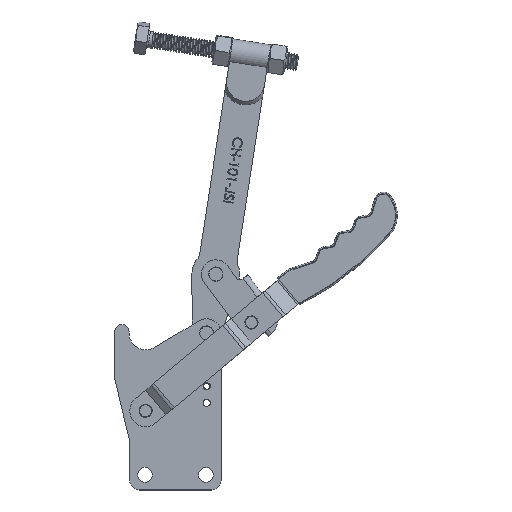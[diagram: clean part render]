
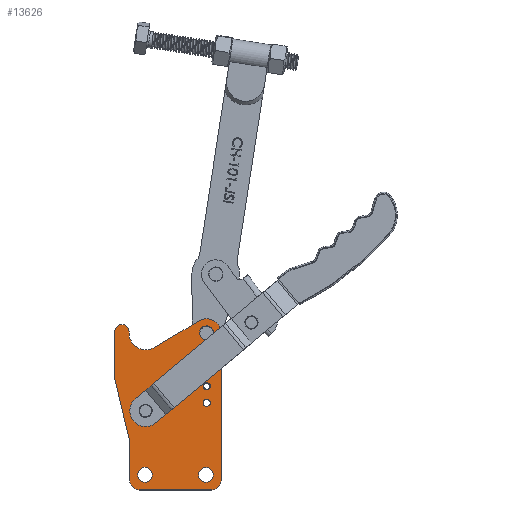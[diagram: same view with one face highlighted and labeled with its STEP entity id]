
A CAD part, top view. The second image highlights one B-rep face of the part: STEP entity #13626.
In plain terms, the highlighted planar face has unit normal (0, 0, 1).
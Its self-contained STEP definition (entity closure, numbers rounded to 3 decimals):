
#865=FACE_BOUND('',#2165,.T.);
#866=FACE_BOUND('',#2166,.T.);
#867=FACE_BOUND('',#2167,.T.);
#868=FACE_BOUND('',#2168,.T.);
#869=FACE_BOUND('',#2169,.T.);
#870=FACE_BOUND('',#2170,.T.);
#1091=PLANE('',#14680);
#1405=FACE_OUTER_BOUND('',#2164,.T.);
#2164=EDGE_LOOP('',(#9238,#9239,#9240,#9241,#9242,#9243,#9244,#9245,#9246,
#9247,#9248,#9249,#9250));
#2165=EDGE_LOOP('',(#9251,#9252));
#2166=EDGE_LOOP('',(#9253,#9254));
#2167=EDGE_LOOP('',(#9255,#9256));
#2168=EDGE_LOOP('',(#9257,#9258));
#2169=EDGE_LOOP('',(#9259,#9260));
#2170=EDGE_LOOP('',(#9261,#9262));
#3015=LINE('',#19081,#4103);
#3016=LINE('',#19085,#4104);
#3017=LINE('',#19089,#4105);
#3018=LINE('',#19093,#4106);
#3019=LINE('',#19097,#4107);
#3020=LINE('',#19101,#4108);
#3021=LINE('',#19103,#4109);
#4103=VECTOR('',#15827,1000.);
#4104=VECTOR('',#15830,1000.);
#4105=VECTOR('',#15833,1000.);
#4106=VECTOR('',#15836,1000.);
#4107=VECTOR('',#15839,1000.);
#4108=VECTOR('',#15842,1000.);
#4109=VECTOR('',#15843,1000.);
#5183=CIRCLE('',#14653,6.15);
#5184=CIRCLE('',#14654,6.15);
#5187=CIRCLE('',#14658,6.15);
#5188=CIRCLE('',#14659,6.15);
#5189=CIRCLE('',#14661,3.);
#5192=CIRCLE('',#14664,3.);
#5193=CIRCLE('',#14666,3.);
#5196=CIRCLE('',#14669,3.);
#5197=CIRCLE('',#14671,6.15);
#5200=CIRCLE('',#14674,6.15);
#5201=CIRCLE('',#14676,4.75);
#5204=CIRCLE('',#14679,4.75);
#5205=CIRCLE('',#14681,8.);
#5206=CIRCLE('',#14682,12.);
#5207=CIRCLE('',#14683,14.);
#5208=CIRCLE('',#14684,6.);
#5209=CIRCLE('',#14685,10.);
#5210=CIRCLE('',#14686,8.);
#5661=VERTEX_POINT('',#19023);
#5662=VERTEX_POINT('',#19025);
#5665=VERTEX_POINT('',#19033);
#5666=VERTEX_POINT('',#19035);
#5667=VERTEX_POINT('',#19039);
#5668=VERTEX_POINT('',#19040);
#5671=VERTEX_POINT('',#19049);
#5672=VERTEX_POINT('',#19050);
#5675=VERTEX_POINT('',#19059);
#5676=VERTEX_POINT('',#19060);
#5679=VERTEX_POINT('',#19069);
#5680=VERTEX_POINT('',#19070);
#5683=VERTEX_POINT('',#19079);
#5684=VERTEX_POINT('',#19080);
#5685=VERTEX_POINT('',#19082);
#5686=VERTEX_POINT('',#19084);
#5687=VERTEX_POINT('',#19086);
#5688=VERTEX_POINT('',#19088);
#5689=VERTEX_POINT('',#19090);
#5690=VERTEX_POINT('',#19092);
#5691=VERTEX_POINT('',#19094);
#5692=VERTEX_POINT('',#19096);
#5693=VERTEX_POINT('',#19098);
#5694=VERTEX_POINT('',#19100);
#5695=VERTEX_POINT('',#19102);
#7084=EDGE_CURVE('',#5661,#5662,#5183,.T.);
#7085=EDGE_CURVE('',#5662,#5661,#5184,.T.);
#7089=EDGE_CURVE('',#5665,#5666,#5187,.T.);
#7090=EDGE_CURVE('',#5666,#5665,#5188,.T.);
#7091=EDGE_CURVE('',#5667,#5668,#5189,.T.);
#7095=EDGE_CURVE('',#5668,#5667,#5192,.T.);
#7096=EDGE_CURVE('',#5671,#5672,#5193,.T.);
#7100=EDGE_CURVE('',#5672,#5671,#5196,.T.);
#7101=EDGE_CURVE('',#5675,#5676,#5197,.T.);
#7105=EDGE_CURVE('',#5676,#5675,#5200,.T.);
#7106=EDGE_CURVE('',#5679,#5680,#5201,.T.);
#7110=EDGE_CURVE('',#5680,#5679,#5204,.T.);
#7111=EDGE_CURVE('',#5683,#5684,#3015,.T.);
#7112=EDGE_CURVE('',#5683,#5685,#5205,.T.);
#7113=EDGE_CURVE('',#5685,#5686,#3016,.T.);
#7114=EDGE_CURVE('',#5686,#5687,#5206,.T.);
#7115=EDGE_CURVE('',#5687,#5688,#3017,.T.);
#7116=EDGE_CURVE('',#5688,#5689,#5207,.T.);
#7117=EDGE_CURVE('',#5689,#5690,#3018,.T.);
#7118=EDGE_CURVE('',#5690,#5691,#5208,.T.);
#7119=EDGE_CURVE('',#5691,#5692,#3019,.T.);
#7120=EDGE_CURVE('',#5692,#5693,#5209,.T.);
#7121=EDGE_CURVE('',#5693,#5694,#3020,.T.);
#7122=EDGE_CURVE('',#5694,#5695,#3021,.T.);
#7123=EDGE_CURVE('',#5695,#5684,#5210,.T.);
#9238=ORIENTED_EDGE('',*,*,#7111,.F.);
#9239=ORIENTED_EDGE('',*,*,#7112,.T.);
#9240=ORIENTED_EDGE('',*,*,#7113,.T.);
#9241=ORIENTED_EDGE('',*,*,#7114,.T.);
#9242=ORIENTED_EDGE('',*,*,#7115,.T.);
#9243=ORIENTED_EDGE('',*,*,#7116,.T.);
#9244=ORIENTED_EDGE('',*,*,#7117,.T.);
#9245=ORIENTED_EDGE('',*,*,#7118,.T.);
#9246=ORIENTED_EDGE('',*,*,#7119,.T.);
#9247=ORIENTED_EDGE('',*,*,#7120,.T.);
#9248=ORIENTED_EDGE('',*,*,#7121,.T.);
#9249=ORIENTED_EDGE('',*,*,#7122,.T.);
#9250=ORIENTED_EDGE('',*,*,#7123,.T.);
#9251=ORIENTED_EDGE('',*,*,#7101,.F.);
#9252=ORIENTED_EDGE('',*,*,#7105,.F.);
#9253=ORIENTED_EDGE('',*,*,#7091,.F.);
#9254=ORIENTED_EDGE('',*,*,#7095,.F.);
#9255=ORIENTED_EDGE('',*,*,#7085,.F.);
#9256=ORIENTED_EDGE('',*,*,#7084,.F.);
#9257=ORIENTED_EDGE('',*,*,#7090,.F.);
#9258=ORIENTED_EDGE('',*,*,#7089,.F.);
#9259=ORIENTED_EDGE('',*,*,#7096,.F.);
#9260=ORIENTED_EDGE('',*,*,#7100,.F.);
#9261=ORIENTED_EDGE('',*,*,#7106,.F.);
#9262=ORIENTED_EDGE('',*,*,#7110,.F.);
#13626=ADVANCED_FACE('',(#1405,#865,#866,#867,#868,#869,#870),#1091,.T.);
#14653=AXIS2_PLACEMENT_3D('',#19026,#15766,#15767);
#14654=AXIS2_PLACEMENT_3D('',#19027,#15768,#15769);
#14658=AXIS2_PLACEMENT_3D('',#19036,#15777,#15778);
#14659=AXIS2_PLACEMENT_3D('',#19037,#15779,#15780);
#14661=AXIS2_PLACEMENT_3D('',#19041,#15783,#15784);
#14664=AXIS2_PLACEMENT_3D('',#19047,#15790,#15791);
#14666=AXIS2_PLACEMENT_3D('',#19051,#15794,#15795);
#14669=AXIS2_PLACEMENT_3D('',#19057,#15801,#15802);
#14671=AXIS2_PLACEMENT_3D('',#19061,#15805,#15806);
#14674=AXIS2_PLACEMENT_3D('',#19067,#15812,#15813);
#14676=AXIS2_PLACEMENT_3D('',#19071,#15816,#15817);
#14679=AXIS2_PLACEMENT_3D('',#19077,#15823,#15824);
#14680=AXIS2_PLACEMENT_3D('',#19078,#15825,#15826);
#14681=AXIS2_PLACEMENT_3D('',#19083,#15828,#15829);
#14682=AXIS2_PLACEMENT_3D('',#19087,#15831,#15832);
#14683=AXIS2_PLACEMENT_3D('',#19091,#15834,#15835);
#14684=AXIS2_PLACEMENT_3D('',#19095,#15837,#15838);
#14685=AXIS2_PLACEMENT_3D('',#19099,#15840,#15841);
#14686=AXIS2_PLACEMENT_3D('',#19104,#15844,#15845);
#15766=DIRECTION('center_axis',(0.,0.,1.));
#15767=DIRECTION('ref_axis',(1.,0.,0.));
#15768=DIRECTION('center_axis',(0.,0.,1.));
#15769=DIRECTION('ref_axis',(1.,0.,0.));
#15777=DIRECTION('center_axis',(0.,0.,1.));
#15778=DIRECTION('ref_axis',(1.,0.,0.));
#15779=DIRECTION('center_axis',(0.,0.,1.));
#15780=DIRECTION('ref_axis',(1.,0.,0.));
#15783=DIRECTION('center_axis',(0.,0.,1.));
#15784=DIRECTION('ref_axis',(1.,0.,0.));
#15790=DIRECTION('center_axis',(0.,0.,1.));
#15791=DIRECTION('ref_axis',(1.,0.,0.));
#15794=DIRECTION('center_axis',(0.,0.,1.));
#15795=DIRECTION('ref_axis',(1.,0.,0.));
#15801=DIRECTION('center_axis',(0.,0.,1.));
#15802=DIRECTION('ref_axis',(1.,0.,0.));
#15805=DIRECTION('center_axis',(0.,0.,1.));
#15806=DIRECTION('ref_axis',(1.,0.,0.));
#15812=DIRECTION('center_axis',(0.,0.,1.));
#15813=DIRECTION('ref_axis',(1.,0.,0.));
#15816=DIRECTION('center_axis',(0.,0.,1.));
#15817=DIRECTION('ref_axis',(1.,0.,0.));
#15823=DIRECTION('center_axis',(0.,0.,1.));
#15824=DIRECTION('ref_axis',(1.,0.,0.));
#15825=DIRECTION('center_axis',(0.,0.,1.));
#15826=DIRECTION('ref_axis',(1.,0.,0.));
#15827=DIRECTION('',(-1.,0.,0.));
#15828=DIRECTION('center_axis',(0.,0.,1.));
#15829=DIRECTION('ref_axis',(1.,0.,0.));
#15830=DIRECTION('',(0.,1.,0.));
#15831=DIRECTION('center_axis',(0.,0.,1.));
#15832=DIRECTION('ref_axis',(1.,0.,0.));
#15833=DIRECTION('',(-0.859,-0.512,0.));
#15834=DIRECTION('center_axis',(0.,0.,-1.));
#15835=DIRECTION('ref_axis',(1.,0.,0.));
#15836=DIRECTION('',(0.,1.,0.));
#15837=DIRECTION('center_axis',(0.,0.,1.));
#15838=DIRECTION('ref_axis',(1.,0.,0.));
#15839=DIRECTION('',(0.,-1.,0.));
#15840=DIRECTION('center_axis',(0.,0.,1.));
#15841=DIRECTION('ref_axis',(-1.,0.,0.));
#15842=DIRECTION('',(0.235,-0.972,0.));
#15843=DIRECTION('',(0.,-1.,0.));
#15844=DIRECTION('center_axis',(0.,0.,1.));
#15845=DIRECTION('ref_axis',(1.,0.,0.));
#19023=CARTESIAN_POINT('',(-18.85,-22.9,5.));
#19025=CARTESIAN_POINT('',(-6.55,-22.9,5.));
#19026=CARTESIAN_POINT('Origin',(-12.7,-22.9,5.));
#19027=CARTESIAN_POINT('Origin',(-12.7,-22.9,5.));
#19033=CARTESIAN_POINT('',(-69.65,-22.9,5.));
#19035=CARTESIAN_POINT('',(-57.35,-22.9,5.));
#19036=CARTESIAN_POINT('Origin',(-63.5,-22.9,5.));
#19037=CARTESIAN_POINT('Origin',(-63.5,-22.9,5.));
#19039=CARTESIAN_POINT('',(-15.,37.2,5.));
#19040=CARTESIAN_POINT('',(-9.,37.2,5.));
#19041=CARTESIAN_POINT('Origin',(-12.,37.2,5.));
#19047=CARTESIAN_POINT('Origin',(-12.,37.2,5.));
#19049=CARTESIAN_POINT('',(-15.,51.1,5.));
#19050=CARTESIAN_POINT('',(-9.,51.1,5.));
#19051=CARTESIAN_POINT('Origin',(-12.,51.1,5.));
#19057=CARTESIAN_POINT('Origin',(-12.,51.1,5.));
#19059=CARTESIAN_POINT('',(-69.15,30.5,5.));
#19060=CARTESIAN_POINT('',(-56.85,30.5,5.));
#19061=CARTESIAN_POINT('Origin',(-63.,30.5,5.));
#19067=CARTESIAN_POINT('Origin',(-63.,30.5,5.));
#19069=CARTESIAN_POINT('',(-16.75,95.5,5.));
#19070=CARTESIAN_POINT('',(-7.25,95.5,5.));
#19071=CARTESIAN_POINT('Origin',(-12.,95.5,5.));
#19077=CARTESIAN_POINT('Origin',(-12.,95.5,5.));
#19078=CARTESIAN_POINT('Origin',(-12.,95.5,5.));
#19079=CARTESIAN_POINT('',(-8.,-35.6,5.));
#19080=CARTESIAN_POINT('',(-68.2,-35.6,5.));
#19081=CARTESIAN_POINT('',(0.,-35.6,5.));
#19082=CARTESIAN_POINT('',(0.,-27.6,5.));
#19083=CARTESIAN_POINT('Origin',(-8.,-27.6,5.));
#19084=CARTESIAN_POINT('',(0.,95.5,5.));
#19085=CARTESIAN_POINT('',(0.,0.,5.));
#19086=CARTESIAN_POINT('',(-18.142,105.809,5.));
#19087=CARTESIAN_POINT('Origin',(-12.,95.5,5.));
#19088=CARTESIAN_POINT('',(-55.635,83.473,5.));
#19089=CARTESIAN_POINT('',(-55.635,83.473,5.));
#19090=CARTESIAN_POINT('',(-76.8,95.5,5.));
#19091=CARTESIAN_POINT('Origin',(-62.8,95.5,5.));
#19092=CARTESIAN_POINT('',(-76.8,96.6,5.));
#19093=CARTESIAN_POINT('',(-76.8,95.5,5.));
#19094=CARTESIAN_POINT('',(-88.8,96.6,5.));
#19095=CARTESIAN_POINT('Origin',(-82.8,96.6,5.));
#19096=CARTESIAN_POINT('',(-88.8,58.275,5.));
#19097=CARTESIAN_POINT('',(-88.8,95.5,5.));
#19098=CARTESIAN_POINT('',(-88.52,55.923,5.));
#19099=CARTESIAN_POINT('Origin',(-78.8,58.275,5.));
#19100=CARTESIAN_POINT('',(-76.2,5.,5.));
#19101=CARTESIAN_POINT('',(-76.2,5.,5.));
#19102=CARTESIAN_POINT('',(-76.2,-27.6,5.));
#19103=CARTESIAN_POINT('',(-76.2,0.,5.));
#19104=CARTESIAN_POINT('Origin',(-68.2,-27.6,5.));
